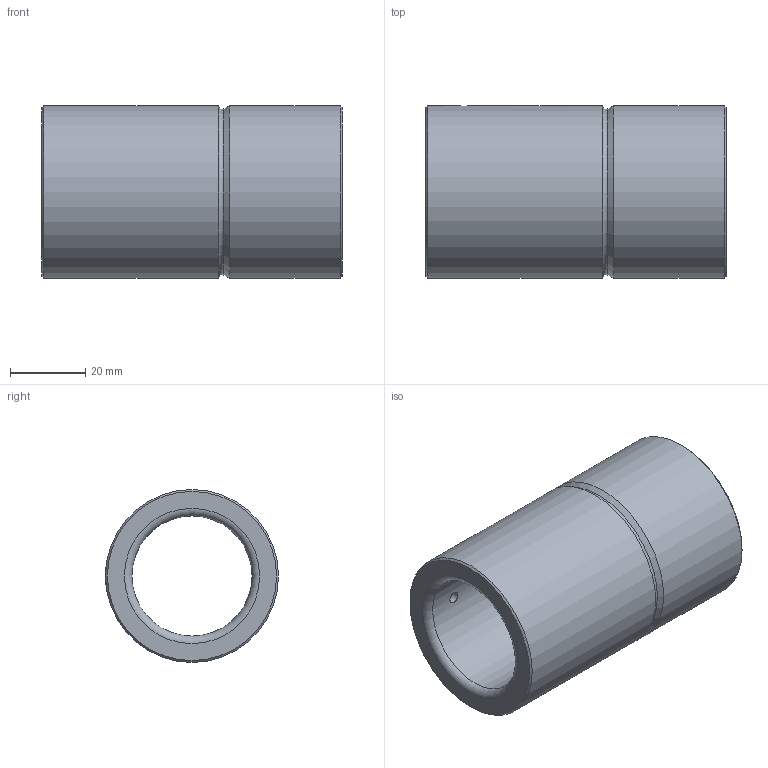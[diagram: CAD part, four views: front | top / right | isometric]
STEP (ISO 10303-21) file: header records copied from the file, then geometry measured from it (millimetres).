
FILE_DESCRIPTION( ( 'STEP AP214' ), '1' );
FILE_NAME( 'p:/temp/worker_347/temp/exporttempdir_5672_371_78GW5/format_0/WZ 4068 32 x 80.stp', '2020-11-26T19:23:09', ( 'License CC BY-ND 4.0' ), ( 'CADENAS' ), ' ', 'PARTsolutions', ' ' );
FILE_SCHEMA( ( 'AUTOMOTIVE_DESIGN { 1 0 10303 214 1 1 1 1 }' ) );
Length unit declared in the file: millimetre
Products named in the file (1): _WZ 4068 32 x 80
Bounding box: 80 x 46.04 x 46.04 mm (x, y, z)
Volume: 64583.1 mm3; surface area: 21552.2 mm2
Topology: 1 solids, 1 shells, 16 faces, 29 edges, 17 vertices
Faces by surface type: cylinder 6, cone 4, plane 4, torus 2
Full cylindrical faces by diameter (mm): 3 x1, 5 x1, 32 x1, 34 x1, 46.04 x2
Entity records: 594 total; most frequent: CARTESIAN_POINT 165, DIRECTION 64, EDGE_LOOP 34, ORIENTED_EDGE 34, AXIS2_PLACEMENT_3D 32, FACE_OUTER_BOUND 24, EDGE_CURVE 17, VERTEX_POINT 17
